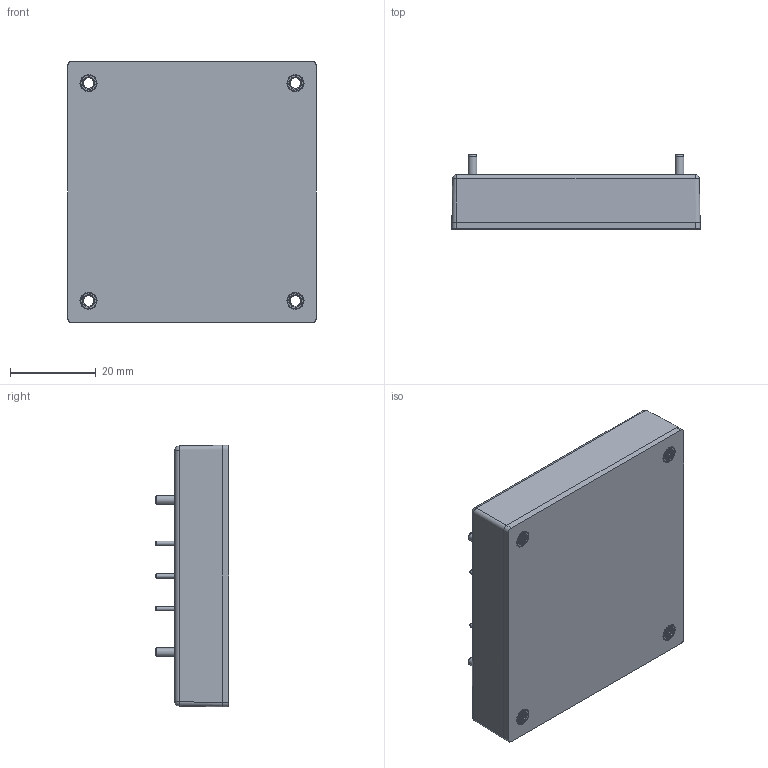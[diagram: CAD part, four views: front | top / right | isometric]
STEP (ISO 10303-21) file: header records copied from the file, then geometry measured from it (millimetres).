
FILE_DESCRIPTION (( 'STEP AP203' ), '1' );
FILE_NAME ('CHB300W,CHB350-L,CHB150W8成品圖2024.04.16.STEP', '2024-05-14T06:19:15', ( '' ), ( '' ), 'SwSTEP 2.0', 'SolidWorks 2020', '' );
FILE_SCHEMA (( 'CONFIG_CONTROL_DESIGN' ));
Length unit declared in the file: millimetre
Products named in the file (1): CHB300W,CHB350-L,CHB150W8成品圖2024.04.16
Bounding box: 57.9 x 17.2 x 61 mm (x, y, z)
Volume: 42418.4 mm3; surface area: 16596.7 mm2
Topology: 1 solids, 9 shells, 609 faces, 1637 edges, 1072 vertices
Faces by surface type: plane 345, cylinder 142, cone 107, bspline 11, sphere 4
Full cylindrical faces by diameter (mm): 1 x5, 1.2 x5, 2 x4, 2.2 x4, 4 x5, 4.3 x4, 4.6 x4
Entity records: 28503 total; most frequent: CARTESIAN_POINT 13632, ORIENTED_EDGE 3112, DIRECTION 2989, EDGE_CURVE 1556, AXIS2_PLACEMENT_3D 1076, VERTEX_POINT 1061, VECTOR 837, LINE 837
